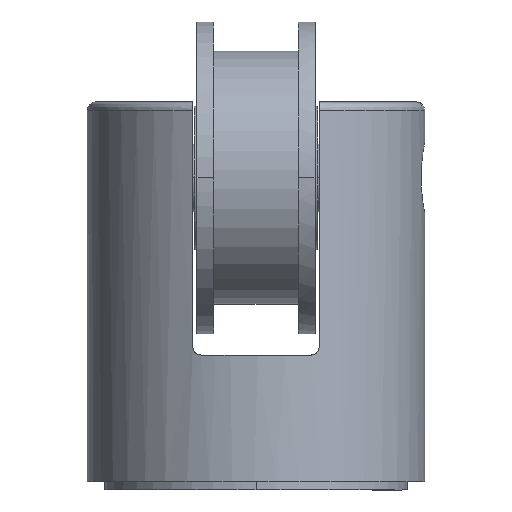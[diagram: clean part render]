
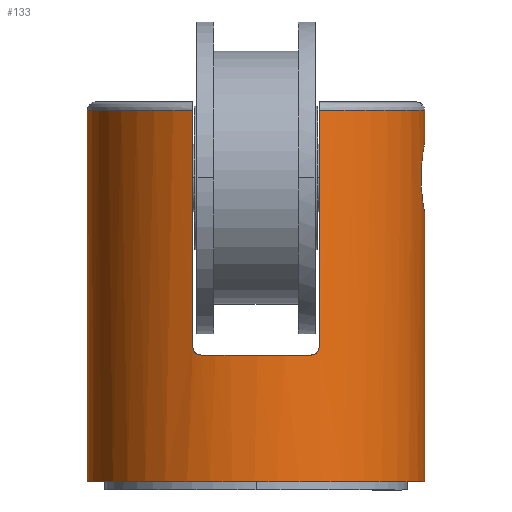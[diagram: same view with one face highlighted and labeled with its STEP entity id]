
A CAD part, front view. The second image highlights one B-rep face of the part: STEP entity #133.
In plain terms, the highlighted cylindrical face has radius 20 mm (diameter 40 mm), a partial arc.
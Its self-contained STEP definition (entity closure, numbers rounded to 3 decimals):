
#133=ADVANCED_FACE('',(#210),#1200,.T.);
#210=FACE_OUTER_BOUND('',#297,.T.);
#297=EDGE_LOOP('',(#531,#532,#533,#534,#535,#536,#537,#538,#539,#540,#541,
#542));
#531=ORIENTED_EDGE('',*,*,#844,.T.);
#532=ORIENTED_EDGE('',*,*,#845,.T.);
#533=ORIENTED_EDGE('',*,*,#794,.F.);
#534=ORIENTED_EDGE('',*,*,#827,.T.);
#535=ORIENTED_EDGE('',*,*,#795,.F.);
#536=ORIENTED_EDGE('',*,*,#787,.T.);
#537=ORIENTED_EDGE('',*,*,#788,.T.);
#538=ORIENTED_EDGE('',*,*,#808,.T.);
#539=ORIENTED_EDGE('',*,*,#789,.T.);
#540=ORIENTED_EDGE('',*,*,#807,.T.);
#541=ORIENTED_EDGE('',*,*,#790,.T.);
#542=ORIENTED_EDGE('',*,*,#791,.T.);
#787=EDGE_CURVE('',#1107,#1108,#1003,.T.);
#788=EDGE_CURVE('',#1108,#1109,#904,.T.);
#789=EDGE_CURVE('',#1110,#1111,#1004,.T.);
#790=EDGE_CURVE('',#1112,#1113,#905,.T.);
#791=EDGE_CURVE('',#1113,#1143,#1005,.T.);
#794=EDGE_CURVE('',#1116,#1104,#907,.T.);
#795=EDGE_CURVE('',#1107,#1117,#908,.T.);
#807=EDGE_CURVE('',#1111,#1112,#920,.T.);
#808=EDGE_CURVE('',#1109,#1110,#921,.T.);
#827=EDGE_CURVE('',#1116,#1117,#927,.T.);
#844=EDGE_CURVE('',#1143,#1144,#935,.T.);
#845=EDGE_CURVE('',#1144,#1104,#1029,.T.);
#904=B_SPLINE_CURVE_WITH_KNOTS('',1,(#2282,#2283),.UNSPECIFIED.,.F.,.F.,
(2,2),(0.,28.),.UNSPECIFIED.);
#905=B_SPLINE_CURVE_WITH_KNOTS('',1,(#2287,#2288),.UNSPECIFIED.,.F.,.F.,
(2,2),(0.,28.),.UNSPECIFIED.);
#907=B_SPLINE_CURVE_WITH_KNOTS('',1,(#2297,#2298),.UNSPECIFIED.,.F.,.F.,
(2,2),(17.109,49.01),.UNSPECIFIED.);
#908=B_SPLINE_CURVE_WITH_KNOTS('',1,(#2299,#2300),.UNSPECIFIED.,.F.,.F.,
(2,2),(5.01,8.91),.UNSPECIFIED.);
#920=B_SPLINE_CURVE_WITH_KNOTS('',3,(#2393,#2394,#2395,#2396,#2397,#2398,
#2399,#2400,#2401,#2402,#2403,#2404,#2405,#2406,#2407,#2408),
 .UNSPECIFIED.,.F.,.F.,(4,3,3,3,3,4),(-1.631,-1.253,
-0.874,-0.503,-0.155,0.),
 .UNSPECIFIED.);
#921=B_SPLINE_CURVE_WITH_KNOTS('',3,(#2409,#2410,#2411,#2412,#2413,#2414,
#2415,#2416,#2417,#2418,#2419,#2420,#2421,#2422,#2423,#2424),
 .UNSPECIFIED.,.F.,.F.,(4,3,3,3,3,4),(-1.63,-1.308,
-0.988,-0.656,-0.302,0.),
 .UNSPECIFIED.);
#927=B_SPLINE_CURVE_WITH_KNOTS('',3,(#2529,#2530,#2531,#2532,#2533,#2534,
#2535,#2536,#2537,#2538,#2539,#2540,#2541,#2542,#2543,#2544,#2545,#2546,
#2547,#2548,#2549,#2550,#2551,#2552,#2553,#2554,#2555,#2556,#2557,#2558,
#2559),.UNSPECIFIED.,.F.,.F.,(4,3,3,3,3,3,3,3,3,3,4),(-12.976,
-12.458,-11.057,-9.659,-8.287,
-6.925,-5.541,-4.137,-2.746,
-1.374,0.),.UNSPECIFIED.);
#935=B_SPLINE_CURVE_WITH_KNOTS('',1,(#2627,#2628),.UNSPECIFIED.,.F.,.F.,
(2,2),(5.01,49.01),.UNSPECIFIED.);
#1003=(
BOUNDED_CURVE()
B_SPLINE_CURVE(2,(#2279,#2280,#2281),.UNSPECIFIED.,.F.,.F.)
B_SPLINE_CURVE_WITH_KNOTS((3,3),(23.728,47.456),
 .UNSPECIFIED.)
CURVE()
GEOMETRIC_REPRESENTATION_ITEM()
RATIONAL_B_SPLINE_CURVE((1.,0.829,1.))
REPRESENTATION_ITEM('')
);
#1004=(
BOUNDED_CURVE()
B_SPLINE_CURVE(2,(#2284,#2285,#2286),.UNSPECIFIED.,.F.,.F.)
B_SPLINE_CURVE_WITH_KNOTS((3,3),(0.,13.24),.UNSPECIFIED.)
CURVE()
GEOMETRIC_REPRESENTATION_ITEM()
RATIONAL_B_SPLINE_CURVE((1.,0.946,1.))
REPRESENTATION_ITEM('')
);
#1005=(
BOUNDED_CURVE()
B_SPLINE_CURVE(2,(#2289,#2290,#2291),.UNSPECIFIED.,.F.,.F.)
B_SPLINE_CURVE_WITH_KNOTS((3,3),(0.,23.728),.UNSPECIFIED.)
CURVE()
GEOMETRIC_REPRESENTATION_ITEM()
RATIONAL_B_SPLINE_CURVE((1.,0.829,1.))
REPRESENTATION_ITEM('')
);
#1029=(
BOUNDED_CURVE()
B_SPLINE_CURVE(2,(#2629,#2630,#2631,#2632,#2633),.UNSPECIFIED.,.F.,.F.)
B_SPLINE_CURVE_WITH_KNOTS((3,2,3),(62.832,94.248,125.664),
 .UNSPECIFIED.)
CURVE()
GEOMETRIC_REPRESENTATION_ITEM()
RATIONAL_B_SPLINE_CURVE((1.,0.707,1.,0.707,1.))
REPRESENTATION_ITEM('')
);
#1104=VERTEX_POINT('',#2217);
#1107=VERTEX_POINT('',#2220);
#1108=VERTEX_POINT('',#2221);
#1109=VERTEX_POINT('',#2222);
#1110=VERTEX_POINT('',#2223);
#1111=VERTEX_POINT('',#2224);
#1112=VERTEX_POINT('',#2225);
#1113=VERTEX_POINT('',#2226);
#1116=VERTEX_POINT('',#2229);
#1117=VERTEX_POINT('',#2230);
#1143=VERTEX_POINT('',#2256);
#1144=VERTEX_POINT('',#2257);
#1200=CYLINDRICAL_SURFACE('',#1275,20.);
#1275=AXIS2_PLACEMENT_3D('',#1925,#1342,$);
#1342=DIRECTION('',(0.,0.,-1.));
#1925=CARTESIAN_POINT('',(0.,0.,-23.));
#2217=CARTESIAN_POINT('',(20.,0.,-45.));
#2220=CARTESIAN_POINT('',(20.,0.,-1.));
#2221=CARTESIAN_POINT('',(7.5,-18.54,-1.));
#2222=CARTESIAN_POINT('',(7.5,-18.54,-29.));
#2223=CARTESIAN_POINT('',(6.5,-18.914,-30.));
#2224=CARTESIAN_POINT('',(-6.5,-18.914,-30.));
#2225=CARTESIAN_POINT('',(-7.5,-18.54,-29.));
#2226=CARTESIAN_POINT('',(-7.5,-18.54,-1.));
#2229=CARTESIAN_POINT('',(20.,0.,-13.1));
#2230=CARTESIAN_POINT('',(20.,0.,-4.9));
#2256=CARTESIAN_POINT('',(-20.,0.,-1.));
#2257=CARTESIAN_POINT('',(-20.,0.,-45.));
#2279=CARTESIAN_POINT('',(20.,0.,-1.));
#2280=CARTESIAN_POINT('',(20.,-13.484,-1.));
#2281=CARTESIAN_POINT('',(7.5,-18.54,-1.));
#2282=CARTESIAN_POINT('',(7.5,-18.54,-1.));
#2283=CARTESIAN_POINT('',(7.5,-18.54,-29.));
#2284=CARTESIAN_POINT('',(6.5,-18.914,-30.));
#2285=CARTESIAN_POINT('',(0.,-21.148,-30.));
#2286=CARTESIAN_POINT('',(-6.5,-18.914,-30.));
#2287=CARTESIAN_POINT('',(-7.5,-18.54,-29.));
#2288=CARTESIAN_POINT('',(-7.5,-18.54,-1.));
#2289=CARTESIAN_POINT('',(-7.5,-18.54,-1.));
#2290=CARTESIAN_POINT('',(-20.,-13.484,-1.));
#2291=CARTESIAN_POINT('',(-20.,0.,-1.));
#2297=CARTESIAN_POINT('',(20.,0.,-13.1));
#2298=CARTESIAN_POINT('',(20.,0.,-45.));
#2299=CARTESIAN_POINT('',(20.,0.,-1.));
#2300=CARTESIAN_POINT('',(20.,0.,-4.9));
#2393=CARTESIAN_POINT('',(-6.5,-18.914,-30.));
#2394=CARTESIAN_POINT('',(-6.618,-18.874,-30.));
#2395=CARTESIAN_POINT('',(-6.738,-18.831,-29.979));
#2396=CARTESIAN_POINT('',(-6.848,-18.791,-29.937));
#2397=CARTESIAN_POINT('',(-6.959,-18.751,-29.896));
#2398=CARTESIAN_POINT('',(-7.065,-18.711,-29.834));
#2399=CARTESIAN_POINT('',(-7.155,-18.676,-29.755));
#2400=CARTESIAN_POINT('',(-7.244,-18.642,-29.678));
#2401=CARTESIAN_POINT('',(-7.321,-18.612,-29.583));
#2402=CARTESIAN_POINT('',(-7.379,-18.589,-29.477));
#2403=CARTESIAN_POINT('',(-7.433,-18.568,-29.378));
#2404=CARTESIAN_POINT('',(-7.47,-18.552,-29.267));
#2405=CARTESIAN_POINT('',(-7.488,-18.545,-29.154));
#2406=CARTESIAN_POINT('',(-7.496,-18.542,-29.103));
#2407=CARTESIAN_POINT('',(-7.5,-18.54,-29.052));
#2408=CARTESIAN_POINT('',(-7.5,-18.54,-29.));
#2409=CARTESIAN_POINT('',(7.5,-18.54,-29.));
#2410=CARTESIAN_POINT('',(7.5,-18.54,-29.106));
#2411=CARTESIAN_POINT('',(7.483,-18.548,-29.214));
#2412=CARTESIAN_POINT('',(7.45,-18.561,-29.314));
#2413=CARTESIAN_POINT('',(7.417,-18.574,-29.414));
#2414=CARTESIAN_POINT('',(7.367,-18.594,-29.509));
#2415=CARTESIAN_POINT('',(7.306,-18.618,-29.592));
#2416=CARTESIAN_POINT('',(7.243,-18.643,-29.678));
#2417=CARTESIAN_POINT('',(7.166,-18.672,-29.754));
#2418=CARTESIAN_POINT('',(7.08,-18.705,-29.814));
#2419=CARTESIAN_POINT('',(6.989,-18.739,-29.879));
#2420=CARTESIAN_POINT('',(6.887,-18.777,-29.929));
#2421=CARTESIAN_POINT('',(6.781,-18.815,-29.96));
#2422=CARTESIAN_POINT('',(6.69,-18.848,-29.986));
#2423=CARTESIAN_POINT('',(6.595,-18.882,-30.));
#2424=CARTESIAN_POINT('',(6.5,-18.914,-30.));
#2529=CARTESIAN_POINT('',(20.,0.,-13.1));
#2530=CARTESIAN_POINT('',(20.,-0.172,-13.1));
#2531=CARTESIAN_POINT('',(19.998,-0.344,-13.089));
#2532=CARTESIAN_POINT('',(19.993,-0.514,-13.068));
#2533=CARTESIAN_POINT('',(19.982,-0.973,-13.01));
#2534=CARTESIAN_POINT('',(19.953,-1.427,-12.871));
#2535=CARTESIAN_POINT('',(19.915,-1.839,-12.664));
#2536=CARTESIAN_POINT('',(19.877,-2.25,-12.458));
#2537=CARTESIAN_POINT('',(19.829,-2.631,-12.178));
#2538=CARTESIAN_POINT('',(19.781,-2.95,-11.848));
#2539=CARTESIAN_POINT('',(19.735,-3.263,-11.524));
#2540=CARTESIAN_POINT('',(19.688,-3.525,-11.142));
#2541=CARTESIAN_POINT('',(19.652,-3.716,-10.733));
#2542=CARTESIAN_POINT('',(19.616,-3.905,-10.326));
#2543=CARTESIAN_POINT('',(19.59,-4.029,-9.882));
#2544=CARTESIAN_POINT('',(19.58,-4.077,-9.434));
#2545=CARTESIAN_POINT('',(19.57,-4.125,-8.98));
#2546=CARTESIAN_POINT('',(19.576,-4.096,-8.511));
#2547=CARTESIAN_POINT('',(19.598,-3.992,-8.066));
#2548=CARTESIAN_POINT('',(19.619,-3.887,-7.615));
#2549=CARTESIAN_POINT('',(19.656,-3.701,-7.177));
#2550=CARTESIAN_POINT('',(19.7,-3.453,-6.789));
#2551=CARTESIAN_POINT('',(19.743,-3.206,-6.404));
#2552=CARTESIAN_POINT('',(19.793,-2.89,-6.056));
#2553=CARTESIAN_POINT('',(19.839,-2.531,-5.774));
#2554=CARTESIAN_POINT('',(19.884,-2.176,-5.496));
#2555=CARTESIAN_POINT('',(19.926,-1.769,-5.274));
#2556=CARTESIAN_POINT('',(19.955,-1.341,-5.126));
#2557=CARTESIAN_POINT('',(19.984,-0.913,-4.977));
#2558=CARTESIAN_POINT('',(20.,-0.454,-4.9));
#2559=CARTESIAN_POINT('',(20.,0.,-4.9));
#2627=CARTESIAN_POINT('',(-20.,0.,-1.));
#2628=CARTESIAN_POINT('',(-20.,0.,-45.));
#2629=CARTESIAN_POINT('',(-20.,0.,-45.));
#2630=CARTESIAN_POINT('',(-20.,-20.,-45.));
#2631=CARTESIAN_POINT('',(0.,-20.,-45.));
#2632=CARTESIAN_POINT('',(20.,-20.,-45.));
#2633=CARTESIAN_POINT('',(20.,0.,-45.));
